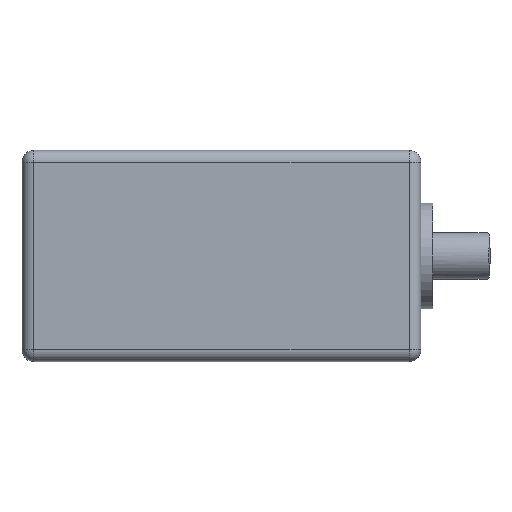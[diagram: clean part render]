
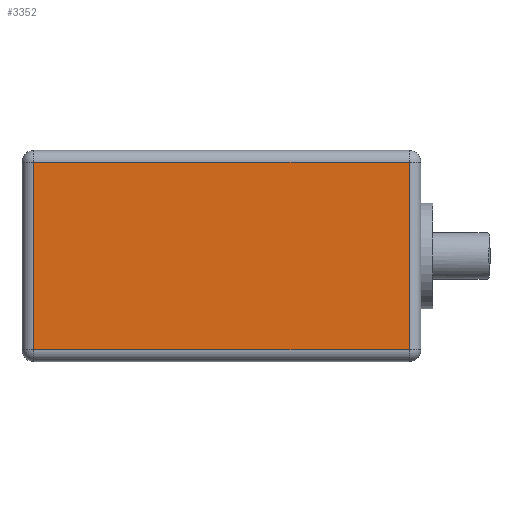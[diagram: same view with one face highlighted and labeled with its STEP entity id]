
A CAD part, front view. The second image highlights one B-rep face of the part: STEP entity #3352.
In plain terms, the highlighted planar face has unit normal (0, -1, 0).
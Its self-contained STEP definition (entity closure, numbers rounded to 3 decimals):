
#1297=DIRECTION('',(-1.,0.,0.));
#1298=VECTOR('',#1297,32.);
#1299=CARTESIAN_POINT('',(16.,0.,-8.));
#1300=LINE('',#1299,#1298);
#1304=DIRECTION('',(0.,0.,-1.));
#1305=VECTOR('',#1304,16.);
#1306=CARTESIAN_POINT('',(-16.,0.,8.));
#1307=LINE('',#1306,#1305);
#1311=DIRECTION('',(1.,0.,0.));
#1312=VECTOR('',#1311,32.);
#1313=CARTESIAN_POINT('',(-16.,0.,8.));
#1314=LINE('',#1313,#1312);
#1318=DIRECTION('',(0.,0.,-1.));
#1319=VECTOR('',#1318,16.);
#1320=CARTESIAN_POINT('',(16.,0.,8.));
#1321=LINE('',#1320,#1319);
#2154=CARTESIAN_POINT('',(16.,0.,-8.));
#2155=CARTESIAN_POINT('',(-16.,0.,-8.));
#2156=VERTEX_POINT('',#2154);
#2157=VERTEX_POINT('',#2155);
#2158=CARTESIAN_POINT('',(-16.,0.,8.));
#2159=VERTEX_POINT('',#2158);
#2160=CARTESIAN_POINT('',(16.,0.,8.));
#2161=VERTEX_POINT('',#2160);
#3339=CARTESIAN_POINT('',(-17.,0.,-9.));
#3340=DIRECTION('',(0.,-1.,0.));
#3341=DIRECTION('',(1.,0.,0.));
#3342=AXIS2_PLACEMENT_3D('',#3339,#3340,#3341);
#3343=PLANE('',#3342);
#3344=ORIENTED_EDGE('',*,*,#3307,.T.);
#3345=ORIENTED_EDGE('',*,*,#3330,.F.);
#3347=ORIENTED_EDGE('',*,*,#3346,.T.);
#3349=ORIENTED_EDGE('',*,*,#3348,.T.);
#3350=EDGE_LOOP('',(#3344,#3345,#3347,#3349));
#3351=FACE_OUTER_BOUND('',#3350,.F.);
#3307=EDGE_CURVE('',#2156,#2157,#1300,.T.);
#3330=EDGE_CURVE('',#2159,#2157,#1307,.T.);
#3346=EDGE_CURVE('',#2159,#2161,#1314,.T.);
#3348=EDGE_CURVE('',#2161,#2156,#1321,.T.);
#3352=ADVANCED_FACE('',(#3351),#3343,.T.);
